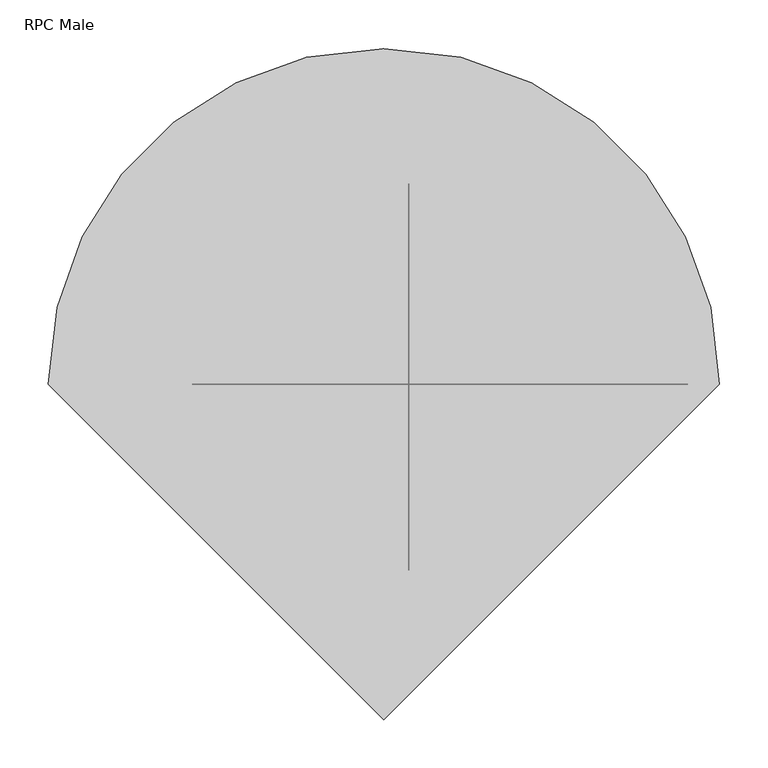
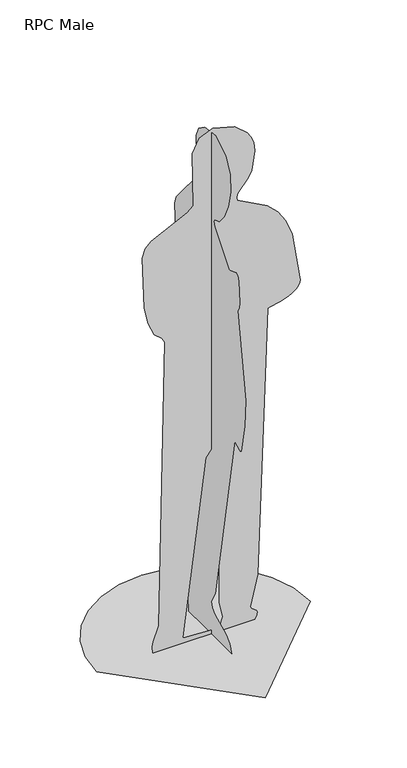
"""IFC4 building model written with IfcOpenShell, lengths in millimetres: proxy geometry, RPC Male : Jay."""

from ifc_helpers import new_model, si_unit, origin, place, context, project, spatial, triangles, source, transform, mapped, element, save


def rpc_male_04e7faa4(model_context):
    return source(origin(), model_context, "Body", "Tessellation", [
        triangles([(348.1139259, 0.0, 0.0), (338.9108903, 79.7646988, 0.0), (312.7009349, 153.0158236, 0.0), (271.5825145, 217.6546288, 0.0), (217.654647, 271.5825508, 0.0), (153.0157691, 312.7008622, 0.0), (79.7646625, 338.9108903, 0.0), (-1.52e-05, 348.1139259, 0.0), (-79.7647079, 338.9109266, 0.0), (-153.0158236, 312.7008986, 0.0), (-217.654647, 271.5825145, 0.0), (-271.5826053, 217.654647, 0.0), (-312.7008622, 153.0157691, 0.0), (-338.9108903, 79.7646443, 0.0), (-348.1139259, -3.04e-05, 0.0), (4.56e-05, -348.1139259, 0.0), (25.969906, 207.7057812, 1358.730582), (25.969906, 199.0380326, 1385.0660385), (25.969906, 144.988016, 1451.0082344), (25.969906, 88.6993642, 1515.3763985), (25.969906, 79.6369813, 1549.0663479), (25.969906, 83.9858347, 1667.6179779), (25.969906, 70.6009958, 1699.9680382), (25.969906, 37.1256477, 1722.2364464), (25.969906, -24.0441197, 1730.525766), (25.969906, -80.489373, 1696.4104065), (25.969906, -107.0170325, 1646.1567879), (25.969906, -110.1323674, 1587.9270573), (25.969906, -96.3405948, 1529.8835072), (25.969906, -72.1470452, 1480.1893021), (25.969906, -44.0569175, 1447.0065891), (25.969906, -18.5755093, 1438.4979515), (25.969906, -12.9996164, 1428.8287743), (25.969906, -18.0346709, 1414.2223984), (25.969906, -101.0534612, 1314.7809391), (25.969906, -140.8704076, 1329.001292), (25.969906, -148.3986091, 1323.1817345), (25.969906, -154.6045529, 1307.9111549), (25.969906, -160.7180788, 1238.2130836), (25.969906, -157.0641412, 1217.9582153), (25.969906, -149.8025114, 1204.6621519), (25.969906, -192.9127343, 919.4751989), (25.969906, -187.3487752, 828.2611444), (25.969906, -169.3111044, 731.7469048), (25.969906, -164.3479626, 729.3221254), (25.969906, -158.9935474, 729.3692156), (25.969906, -132.338234, 743.1232452), (25.969906, -21.5750253, 150.9962794), (25.969906, 1.3329907, 111.7400999), (25.969906, -4.0889239, 91.5776315), (25.969906, -18.3400654, 78.3534024), (25.969906, -83.8498238, 47.0799524), (25.969906, -103.1988426, 28.3785185), (25.969906, -116.267558, 0.0001953), (25.969906, 128.8303086, 0.0001953), (48.018676, -5.05e-05, 611.8604725), (50.9403273, -8.01e-05, 99.1366269), (63.6046978, -8.31e-05, 46.3267735), (52.2284209, -8.51e-05, 12.1979462), (-64.2126639, -8.39e-05, 17.6944357), (-67.0200416, -8.37e-05, 21.5226393), (8.2883193, -5.09e-05, 613.5419106), (29.4758648, -4.77e-05, 640.7369076), (174.0536747, -8.51e-05, 13.5456201), (174.9384499, -8.45e-05, 23.1165714), (172.1949763, -8.41e-05, 29.7962509), (155.7889828, -8.33e-05, 43.3161378), (152.1262703, -8.29e-05, 49.2595432), (177.9006964, -7.68e-05, 151.5572735), (209.9291738, -2.1e-05, 1058.1396275), (218.0748612, -2.09e-05, 1059.6362658), (228.0580273, -2.08e-05, 1061.5962479), (239.3584276, -2.06e-05, 1064.1026356), (251.455618, -2.05e-05, 1067.238418), (263.8294267, -2.03e-05, 1071.0865116), (275.9594094, -2e-05, 1075.7296148), (287.3252854, -1.98e-05, 1081.2508621), (294.9270743, -1.97e-05, 1085.9428722), (301.6178178, -1.95e-05, 1091.1928425), (307.187645, -1.93e-05, 1097.0342737), (311.4266667, -1.91e-05, 1103.5007395), (314.1251212, -1.9e-05, 1110.6254499), (315.0729921, -1.88e-05, 1118.441906), (314.0604449, -1.87e-05, 1126.9836084), (288.9355614, -1.75e-05, 1284.5688297), (269.1399855, -1.34e-05, 1337.9597569), (242.7168527, -8.6e-06, 1379.0999783), (208.3121577, -3.8e-06, 1411.5027969), (110.1413331, 1e-06, 1464.146386), (108.0102131, 2e-06, 1476.40494), (112.7586878, 3.4e-06, 1487.7651478), (146.6394777, 7.7e-06, 1529.9951283), (157.2640745, 8.4e-06, 1551.3013859), (167.0333364, 1.07e-05, 1615.6742008), (163.4873683, 1.25e-05, 1645.2863468), (154.917052, 1.39e-05, 1668.4804253), (142.9300838, 1.49e-05, 1686.4204639), (102.5472472, 1.67e-05, 1720.3602528), (30.0830952, 1.52e-05, 1739.8990311), (-13.8656644, 1.31e-05, 1721.1317173), (-35.7807261, 1.06e-05, 1676.7242535), (-32.738118, 3.3e-06, 1496.001273), (-52.8725358, 2.3e-06, 1478.7055264), (-170.4131629, -1.1e-06, 1421.9914009), (-189.3396057, -2.2e-06, 1402.7694637), (-198.8838996, -4e-06, 1373.5004654), (-193.4315253, -1.44e-05, 1198.6990711), (-180.0347413, -1.79e-05, 1140.3979059), (-160.7393166, -2.05e-05, 1096.5615555), (-135.4800935, -2.17e-05, 1075.8793877), (-125.8486319, -2.57e-05, 1057.7007008), (-144.9497643, -8.1e-05, 87.3932575), (-163.9798891, -8.44e-05, 38.4511595), (-166.5670858, -8.51e-05, 22.9028285), (-164.4788412, -8.59e-05, 0.0004401), (168.1813405, -8.59e-05, 0.0004401)], [[15, 16, 1], [14, 15, 1], [14, 1, 2], [13, 14, 2], [13, 2, 3], [13, 3, 4], [12, 13, 4], [11, 12, 4], [11, 4, 5], [11, 5, 6], [11, 6, 7], [11, 7, 8], [11, 8, 9], [11, 9, 10], [53, 54, 55], [52, 53, 55], [51, 52, 55], [50, 51, 55], [49, 50, 55], [48, 49, 55], [47, 48, 55], [47, 55, 17], [35, 36, 37], [35, 37, 38], [35, 38, 39], [43, 44, 45], [43, 45, 46], [43, 46, 47], [43, 47, 17], [42, 43, 17], [41, 42, 17], [41, 17, 18], [41, 18, 19], [40, 41, 19], [39, 40, 19], [35, 39, 19], [34, 35, 19], [33, 34, 19], [33, 19, 20], [32, 33, 20], [32, 20, 21], [31, 32, 21], [30, 31, 21], [29, 30, 21], [28, 29, 21], [27, 28, 21], [26, 27, 21], [25, 26, 21], [24, 25, 21], [24, 21, 22], [23, 24, 22], [114, 115, 116], [57, 58, 68], [57, 68, 69], [56, 57, 69], [56, 69, 70], [63, 56, 70], [68, 58, 59], [67, 68, 59], [66, 67, 59], [65, 66, 59], [64, 65, 59], [116, 64, 59], [99, 100, 101], [98, 99, 101], [97, 98, 101], [96, 97, 101], [95, 96, 101], [94, 95, 101], [93, 94, 101], [92, 93, 101], [91, 92, 101], [91, 101, 102], [90, 91, 102], [89, 90, 102], [89, 102, 103], [108, 109, 110], [104, 105, 106], [103, 104, 106], [89, 103, 106], [89, 106, 107], [89, 107, 108], [89, 108, 110], [88, 89, 110], [87, 88, 110], [86, 87, 110], [85, 86, 110], [84, 85, 110], [84, 110, 111], [83, 84, 111], [82, 83, 111], [81, 82, 111], [80, 81, 111], [79, 80, 111], [78, 79, 111], [77, 78, 111], [76, 77, 111], [75, 76, 111], [74, 75, 111], [73, 74, 111], [72, 73, 111], [71, 72, 111], [70, 71, 111], [63, 70, 111], [62, 63, 111], [61, 62, 111], [61, 111, 112], [61, 112, 113], [61, 113, 114], [60, 61, 114], [60, 114, 116], [60, 116, 59]], closed=False),
    ])


if __name__ == "__main__":
    model = new_model("IFC4")
    model_context = context("Model", 3, world=origin())
    ifc_project = project(units=[si_unit("LENGTHUNIT", "METRE", prefix="MILLI")], contexts=[model_context])
    site = spatial("IfcSite", under=ifc_project)
    building = spatial("IfcBuilding", under=site)
    placement = place(None, origin())
    rpc_male_shape = rpc_male_04e7faa4(model_context)
    element("IfcBuildingElementProxy", 1, Name="RPC Male : Jay", ObjectType="RPC Male : Jay", at=placement, inside=building, context=model_context, shape_type="MappedRepresentation", body=[
        mapped(rpc_male_shape, transform((0.0, 0.0, 0.0), x_axis=(1.0, 0.0, 0.0), y_axis=(0.0, 1.0, 0.0), z_axis=(0.0, 0.0, 1.0))),
    ])
    save(model, "model.ifc")
